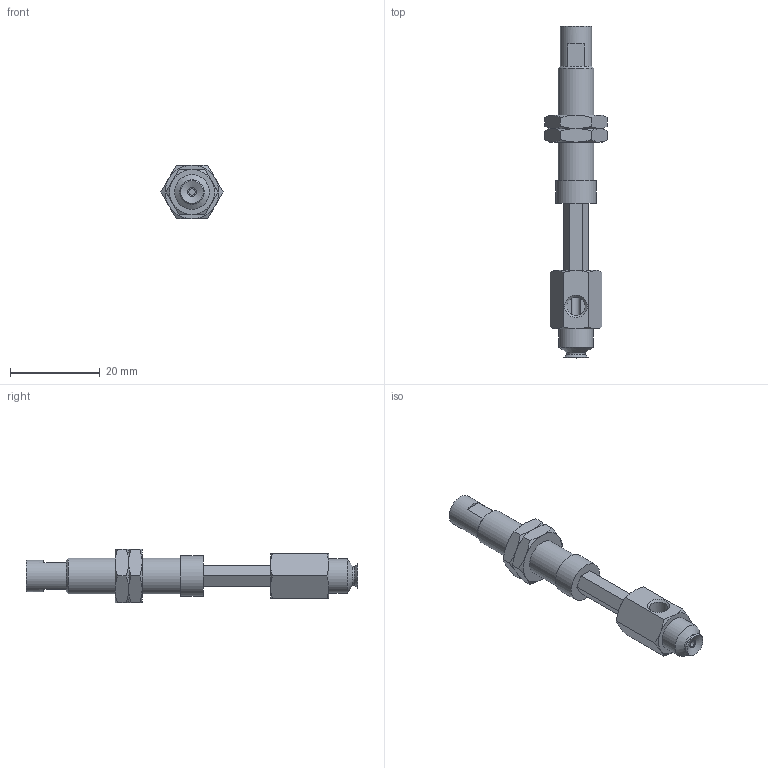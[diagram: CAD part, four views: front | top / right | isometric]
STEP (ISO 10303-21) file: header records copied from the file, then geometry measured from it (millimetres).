
FILE_DESCRIPTION(('STEP AP203'),'1');
FILE_NAME('.stp','2025-04-10T02:47:46',(' '),(' '),'Spatial InterOp 3D',' ',' ');
FILE_SCHEMA(('CONFIG_CONTROL_DESIGN'));
Length unit declared in the file: millimetre
Products named in the file (6): BNABPFYH-5A-15-※; CONNECTOR-H-5A-15; Nut-5A-15-h; NAPFTH-5A-15-FBODY; NAPFTH-5A-15-MBODY; BPFG-5A-※
Assembly tree (6 placements, depth 2):
  BNABPFYH-5A-15-※
    CONNECTOR-H-5A-15
    Nut-5A-15-h  x2
    NAPFTH-5A-15-FBODY
    NAPFTH-5A-15-MBODY
    BPFG-5A-※
Bounding box: 13.86 x 74 x 12 mm (x, y, z)
Volume: 3806.4 mm3; surface area: 4670.5 mm2
Topology: 6 solids, 6 shells, 138 faces, 300 edges, 182 vertices
Faces by surface type: plane 62, cone 51, cylinder 15, torus 9, bspline 1
Full cylindrical faces by diameter (mm): 1.4 x1, 2 x1, 4 x2, 4.134 x2, 5 x1, 6 x2, 7 x1, 7.188 x2, 7.7 x1, 8 x1, 9 x1
Entity records: 3447 total; most frequent: CARTESIAN_POINT 851, DIRECTION 474, ORIENTED_EDGE 416, EDGE_CURVE 208, AXIS2_PLACEMENT_3D 199, EDGE_LOOP 168, VERTEX_POINT 146, FACE_OUTER_BOUND 139
